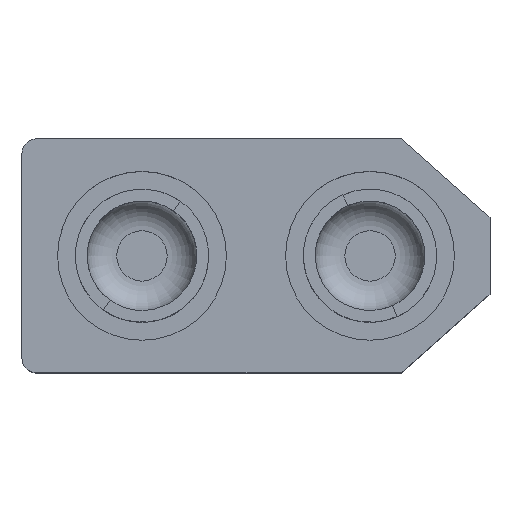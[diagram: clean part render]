
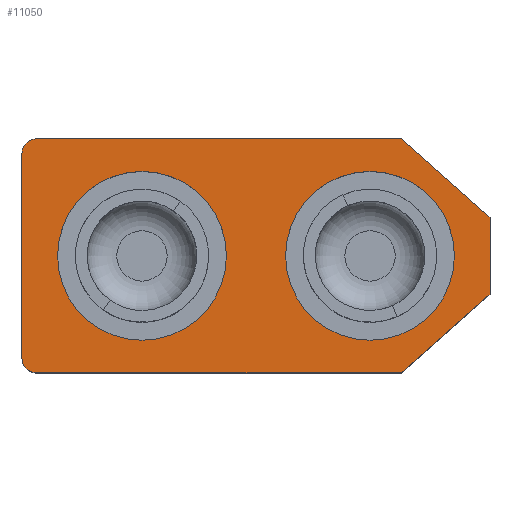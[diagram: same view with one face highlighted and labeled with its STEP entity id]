
A CAD part, top view. The second image highlights one B-rep face of the part: STEP entity #11050.
In plain terms, the highlighted planar face has unit normal (0, 0, 1).
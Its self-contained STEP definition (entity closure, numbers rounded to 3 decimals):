
#523 = FACE_OUTER_BOUND ( 'NONE', #23628, .T. ) ;
#805 = DIRECTION ( 'NONE',  ( -1., 0., 0. ) ) ;
#1136 = EDGE_LOOP ( 'NONE', ( #1914 ) ) ;
#1571 = DIRECTION ( 'NONE',  ( -1., 0., 0. ) ) ;
#1725 = VERTEX_POINT ( 'NONE', #29750 ) ;
#1857 = ORIENTED_EDGE ( 'NONE', *, *, #22133, .T. ) ;
#1914 = ORIENTED_EDGE ( 'NONE', *, *, #7340, .T. ) ;
#2070 = AXIS2_PLACEMENT_3D ( 'NONE', #9334, #7183, #18997 ) ;
#2069 = DIRECTION ( 'NONE',  ( 0., 0., -1. ) ) ;
#2104 = CARTESIAN_POINT ( 'NONE',  ( -7.9, -3.45, 16.5 ) ) ;
#2165 = LINE ( 'NONE', #16538, #27368 ) ;
#3003 = CARTESIAN_POINT ( 'NONE',  ( 4.9, -3.95, 16.5 ) ) ;
#3410 = PLANE ( 'NONE',  #24035 ) ;
#4699 = CARTESIAN_POINT ( 'NONE',  ( -7.4, -3.95, 16.5 ) ) ;
#5101 = EDGE_CURVE ( 'NONE', #12601, #13925, #9338, .T. ) ;
#5135 = ORIENTED_EDGE ( 'NONE', *, *, #23842, .T. ) ;
#6445 = CARTESIAN_POINT ( 'NONE',  ( -3.85, 0., 16.5 ) ) ;
#6844 = CARTESIAN_POINT ( 'NONE',  ( 4.9, 3.95, 16.5 ) ) ;
#7030 = VECTOR ( 'NONE', #18376, 1000. ) ;
#7182 = DIRECTION ( 'NONE',  ( 0., 1., 0. ) ) ;
#7183 = DIRECTION ( 'NONE',  ( 0., 0., 1. ) ) ;
#7340 = EDGE_CURVE ( 'NONE', #17786, #17786, #12501, .T. ) ;
#7644 = AXIS2_PLACEMENT_3D ( 'NONE', #19620, #23856, #28891 ) ;
#8211 = AXIS2_PLACEMENT_3D ( 'NONE', #22327, #15639, #1571 ) ;
#8289 = EDGE_CURVE ( 'NONE', #12016, #21943, #14391, .T. ) ;
#8735 = CARTESIAN_POINT ( 'NONE',  ( 1., 0., 16.5 ) ) ;
#9334 = CARTESIAN_POINT ( 'NONE',  ( -7.4, -3.45, 16.5 ) ) ;
#9338 = CIRCLE ( 'NONE', #2070, 0.5 ) ;
#9590 = CARTESIAN_POINT ( 'NONE',  ( 4.9, -3.95, 16.5 ) ) ;
#9689 = ORIENTED_EDGE ( 'NONE', *, *, #23903, .T. ) ;
#9880 = DIRECTION ( 'NONE',  ( 1., 0., 0. ) ) ;
#11050 = ADVANCED_FACE ( 'NONE', ( #14114, #21266, #523 ), #3410, .F. ) ;
#11249 = LINE ( 'NONE', #6844, #17147 ) ;
#12009 = EDGE_CURVE ( 'NONE', #18985, #28585, #18659, .T. ) ;
#12016 = VERTEX_POINT ( 'NONE', #14252 ) ;
#12501 = CIRCLE ( 'NONE', #8211, 2.85 ) ;
#12601 = VERTEX_POINT ( 'NONE', #2104 ) ;
#12698 = DIRECTION ( 'NONE',  ( 1., 0., 0. ) ) ;
#13925 = VERTEX_POINT ( 'NONE', #4699 ) ;
#14114 = FACE_BOUND ( 'NONE', #1136, .T. ) ;
#14241 = CARTESIAN_POINT ( 'NONE',  ( -7.9, 3.95, 16.5 ) ) ;
#14252 = CARTESIAN_POINT ( 'NONE',  ( -7.4, 3.95, 16.5 ) ) ;
#14391 = CIRCLE ( 'NONE', #7644, 0.5 ) ;
#14513 = CARTESIAN_POINT ( 'NONE',  ( 7.9, 1.3, 16.5 ) ) ;
#14864 = ORIENTED_EDGE ( 'NONE', *, *, #28672, .T. ) ;
#15190 = DIRECTION ( 'NONE',  ( 0., 0., -1. ) ) ;
#15396 = CARTESIAN_POINT ( 'NONE',  ( 7.9, -1.3, 16.5 ) ) ;
#15639 = DIRECTION ( 'NONE',  ( 0., 0., -1. ) ) ;
#16388 = DIRECTION ( 'NONE',  ( -0.749, 0.662, 0. ) ) ;
#16389 = VECTOR ( 'NONE', #28233, 1000. ) ;
#16538 = CARTESIAN_POINT ( 'NONE',  ( 7.9, 1.3, 16.5 ) ) ;
#17147 = VECTOR ( 'NONE', #20487, 1000. ) ;
#17786 = VERTEX_POINT ( 'NONE', #8735 ) ;
#17806 = VECTOR ( 'NONE', #7182, 1000. ) ;
#17947 = VERTEX_POINT ( 'NONE', #27484 ) ;
#18305 = EDGE_LOOP ( 'NONE', ( #24696 ) ) ;
#18376 = DIRECTION ( 'NONE',  ( 0., -1., 0. ) ) ;
#18659 = LINE ( 'NONE', #9590, #16389 ) ;
#18764 = ORIENTED_EDGE ( 'NONE', *, *, #23829, .T. ) ;
#18985 = VERTEX_POINT ( 'NONE', #3003 ) ;
#18997 = DIRECTION ( 'NONE',  ( -1., 0., 0. ) ) ;
#19565 = CARTESIAN_POINT ( 'NONE',  ( -7.9, -3.95, 16.5 ) ) ;
#19620 = CARTESIAN_POINT ( 'NONE',  ( -7.4, 3.45, 16.5 ) ) ;
#20297 = CIRCLE ( 'NONE', #29049, 2.85 ) ;
#20487 = DIRECTION ( 'NONE',  ( -1., 0., 0. ) ) ;
#21266 = FACE_BOUND ( 'NONE', #18305, .T. ) ;
#21943 = VERTEX_POINT ( 'NONE', #24752 ) ;
#22133 = EDGE_CURVE ( 'NONE', #1725, #12016, #11249, .T. ) ;
#22327 = CARTESIAN_POINT ( 'NONE',  ( 3.85, 0., 16.5 ) ) ;
#22952 = CARTESIAN_POINT ( 'NONE',  ( 7.9, -1.3, 16.5 ) ) ;
#23628 = EDGE_LOOP ( 'NONE', ( #1857, #27269, #5135, #27886, #9689, #25556, #14864, #18764 ) ) ;
#23829 = EDGE_CURVE ( 'NONE', #25408, #1725, #2165, .T. ) ;
#23842 = EDGE_CURVE ( 'NONE', #21943, #12601, #29924, .T. ) ;
#23856 = DIRECTION ( 'NONE',  ( 0., 0., 1. ) ) ;
#23903 = EDGE_CURVE ( 'NONE', #13925, #18985, #23931, .T. ) ;
#23931 = LINE ( 'NONE', #19565, #28350 ) ;
#24035 = AXIS2_PLACEMENT_3D ( 'NONE', #24421, #15190, #805 ) ;
#24421 = CARTESIAN_POINT ( 'NONE',  ( 0., 0., 16.5 ) ) ;
#24696 = ORIENTED_EDGE ( 'NONE', *, *, #29562, .T. ) ;
#24752 = CARTESIAN_POINT ( 'NONE',  ( -7.9, 3.45, 16.5 ) ) ;
#25382 = LINE ( 'NONE', #22952, #17806 ) ;
#25408 = VERTEX_POINT ( 'NONE', #14513 ) ;
#25556 = ORIENTED_EDGE ( 'NONE', *, *, #12009, .T. ) ;
#27269 = ORIENTED_EDGE ( 'NONE', *, *, #8289, .T. ) ;
#27368 = VECTOR ( 'NONE', #16388, 1000. ) ;
#27484 = CARTESIAN_POINT ( 'NONE',  ( -1., 0., 16.5 ) ) ;
#27886 = ORIENTED_EDGE ( 'NONE', *, *, #5101, .T. ) ;
#28233 = DIRECTION ( 'NONE',  ( 0.749, 0.662, 0. ) ) ;
#28350 = VECTOR ( 'NONE', #9880, 1000. ) ;
#28585 = VERTEX_POINT ( 'NONE', #15396 ) ;
#28672 = EDGE_CURVE ( 'NONE', #28585, #25408, #25382, .T. ) ;
#28891 = DIRECTION ( 'NONE',  ( -1., 0., 0. ) ) ;
#29049 = AXIS2_PLACEMENT_3D ( 'NONE', #6445, #2069, #12698 ) ;
#29562 = EDGE_CURVE ( 'NONE', #17947, #17947, #20297, .T. ) ;
#29750 = CARTESIAN_POINT ( 'NONE',  ( 4.9, 3.95, 16.5 ) ) ;
#29924 = LINE ( 'NONE', #14241, #7030 ) ;
